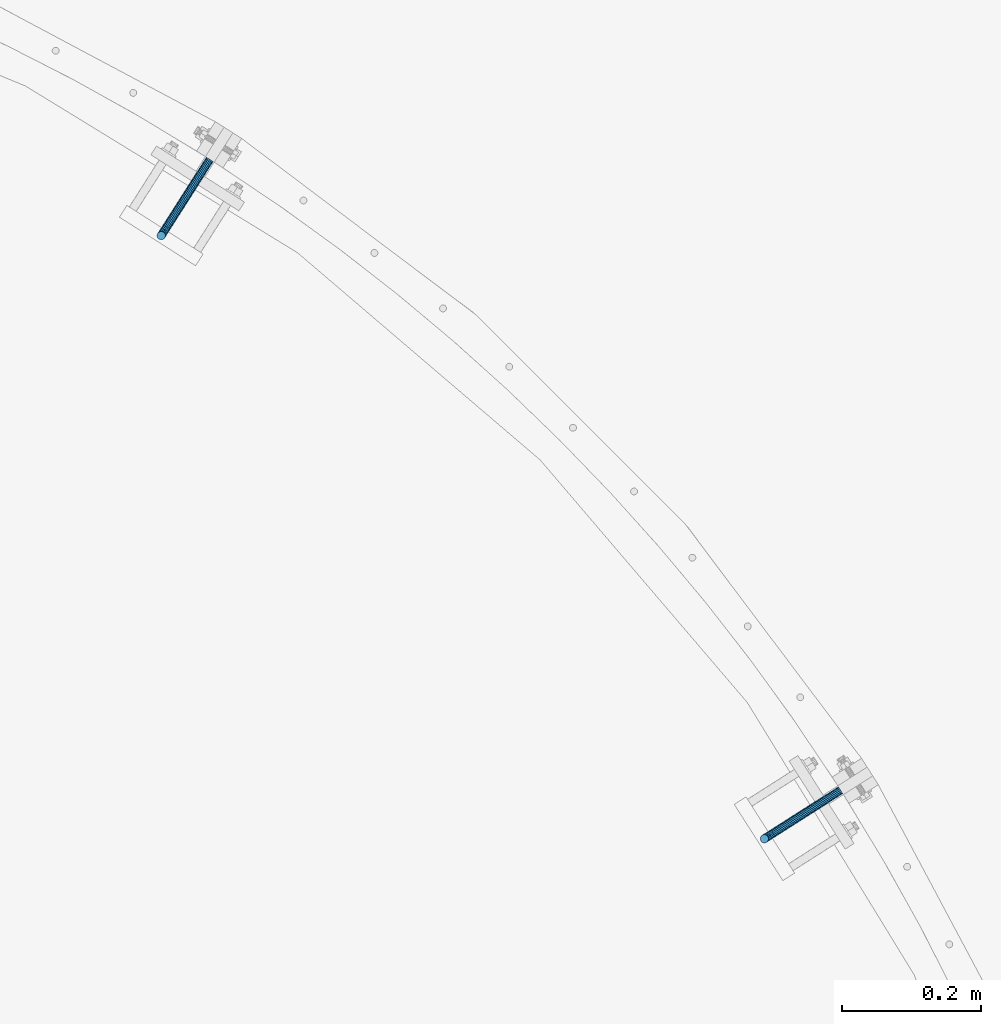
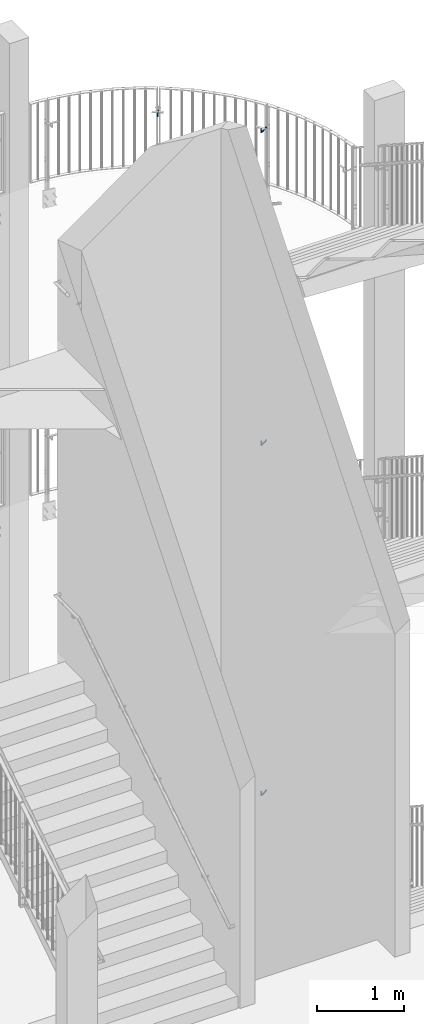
# One storey, part 145 of 296: 4 beams.
"""IFC2X3 building model written with IfcOpenShell, lengths in millimetres."""

from ifc_helpers import new_model, entity, si_unit, converted_unit, origin_with_axes, place, context, project, spatial, faceted_brep, material, element, save


model = new_model("IFC2X3")

# Units and contexts
model_context = context("Model", 3, precision=1e-09, world=origin_with_axes())
ifc_project = project(units=[si_unit("LENGTHUNIT", "METRE", prefix="MILLI"), si_unit("AREAUNIT", "SQUARE_METRE"), si_unit("VOLUMEUNIT", "CUBIC_METRE"), converted_unit("PLANEANGLEUNIT", "DEGREE", entity("IfcPlaneAngleMeasure", 0.01745329), si_unit("PLANEANGLEUNIT", "RADIAN"), dimensions=[0, 0, 0, 0, 0, 0, 0])], contexts=[model_context])

# Site, building, storey
site_placement = place(None, origin_with_axes())
site = spatial("IfcSite", under=ifc_project, at=site_placement, Name="TZD-S?d | Treppenhausgel?nder", CompositionType="ELEMENT")
building_placement = place(site_placement, origin_with_axes())
building = spatial("IfcBuilding", under=site, at=building_placement, Name="Struktur 1", CompositionType="ELEMENT")
storey_placement = place(building_placement, origin_with_axes())
storey = spatial("IfcBuildingStorey", under=building, at=storey_placement, Name="Default Storey", CompositionType="ELEMENT", Elevation=0.0)

# Beams
ifc_material = material(Name="S235JR")
beam_1_placement = place(None, origin_with_axes())
element("IfcBeam", 1, at=beam_1_placement, inside=storey, material=ifc_material, Name="-", ObjectType="-", context=model_context, shape_type="Brep", body=[
    faceted_brep([(4447.202500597, 2285.105902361, 12585.0), (4449.543027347, 2285.156972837, 12585.0), (4451.685848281, 2286.099836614, 12585.0), (4453.304738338, 2287.790951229, 12585.0), (4454.153236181, 2289.972859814, 12585.0), (4454.102165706, 2292.313386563, 12585.0), (4453.159301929, 2294.456207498, 12585.0), (4451.468187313, 2296.075097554, 12585.0), (4449.286278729, 2296.923595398, 12585.0), (4446.94575198, 2296.872524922, 12585.0), (4444.802931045, 2295.929661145, 12585.0), (4443.184040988, 2294.23854653, 12585.0), (4442.335543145, 2292.056637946, 12585.0), (4442.38661362, 2289.716111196, 12585.0), (4443.329477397, 2287.573290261, 12585.0), (4445.020592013, 2285.954400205, 12585.0), (4521.671545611, 2398.376067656, 12515.757359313), (4520.029850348, 2399.421942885, 12514.456722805), (4518.093338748, 2400.655636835, 12514.0), (4516.156827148, 2401.889330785, 12514.456722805), (4514.515131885, 2402.935206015, 12515.757359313), (4513.41818618, 2403.634037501, 12517.703899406), (4513.032990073, 2403.879434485, 12520.0), (4513.41818618, 2403.634037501, 12522.296100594), (4514.515131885, 2402.935206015, 12524.242640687), (4516.156827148, 2401.889330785, 12525.543277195), (4518.093338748, 2400.655636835, 12526.0), (4520.029850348, 2399.421942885, 12525.543277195), (4521.671545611, 2398.376067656, 12524.242640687), (4522.768491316, 2397.677236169, 12522.296100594), (4523.153687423, 2397.431839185, 12520.0), (4522.768491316, 2397.677236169, 12517.703899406), (4447.202500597, 2285.105902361, 12540.0), (4449.543027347, 2285.156972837, 12540.0), (4451.685848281, 2286.099836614, 12540.0), (4453.304738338, 2287.790951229, 12540.0), (4454.153236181, 2289.972859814, 12540.0), (4454.102165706, 2292.313386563, 12540.0), (4453.159301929, 2294.456207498, 12540.0), (4451.468187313, 2296.075097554, 12540.0), (4449.286278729, 2296.923595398, 12540.0), (4446.94575198, 2296.872524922, 12540.0), (4444.802931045, 2295.929661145, 12540.0), (4443.184040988, 2294.23854653, 12540.0), (4442.335543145, 2292.056637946, 12540.0), (4442.38661362, 2289.716111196, 12540.0), (4443.329477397, 2287.573290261, 12540.0), (4445.020592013, 2285.954400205, 12540.0), (4448.247207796, 2286.745764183, 12530.225011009), (4450.534539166, 2286.713334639, 12530.722743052), (4452.597747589, 2287.531231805, 12531.467651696), (4454.122728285, 2289.074938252, 12532.346331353), (4454.877316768, 2291.109438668, 12533.225011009), (4454.746633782, 2293.324998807, 12533.969919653), (4453.750574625, 2295.384319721, 12534.467651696), (4452.040780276, 2296.97388847, 12534.642431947), (4449.877551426, 2297.851707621, 12534.467651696), (4447.590220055, 2297.884137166, 12533.969919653), (4445.527011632, 2297.06624, 12533.225011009), (4444.002030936, 2295.522533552, 12532.346331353), (4443.247442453, 2293.488033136, 12531.467651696), (4443.378125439, 2291.272472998, 12530.722743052), (4444.374184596, 2289.213152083, 12530.225011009), (4446.083978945, 2287.623583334, 12530.050230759), (4451.22228219, 2291.415695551, 12521.938175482), (4453.358125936, 2291.145478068, 12522.857864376), (4455.194617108, 2291.607500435, 12524.234276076), (4456.452166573, 2292.731423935, 12525.857864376), (4456.939323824, 2294.346141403, 12527.481452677), (4456.581923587, 2296.205826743, 12528.857864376), (4455.434376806, 2298.027359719, 12529.777553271), (4453.671387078, 2299.533428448, 12530.100505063), (4451.561353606, 2300.494747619, 12529.777553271), (4449.42550986, 2300.764965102, 12528.857864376), (4447.589018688, 2300.302942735, 12527.481452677), (4446.331469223, 2299.179019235, 12525.857864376), (4445.844311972, 2297.564301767, 12524.234276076), (4446.20171221, 2295.704616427, 12522.857864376), (4447.349258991, 2293.883083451, 12521.938175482), (4449.112248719, 2292.377014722, 12521.615223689), (4455.674795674, 2298.404741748, 12516.401089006), (4457.583922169, 2297.778649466, 12517.602720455), (4459.081106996, 2297.708067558, 12519.401089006), (4459.938417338, 2298.203741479, 12521.52240935), (4460.025335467, 2299.19020937, 12523.643729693), (4459.328628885, 2300.517290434, 12525.442098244), (4457.954364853, 2301.982948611, 12526.643729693), (4456.111762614, 2303.364050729, 12527.065686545), (4454.081341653, 2304.450336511, 12526.643729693), (4452.172215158, 2305.076428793, 12525.442098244), (4450.675030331, 2305.147010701, 12523.643729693), (4449.817719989, 2304.65133678, 12521.52240935), (4449.73080186, 2303.66486889, 12519.401089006), (4450.427508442, 2302.337787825, 12517.602720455), (4451.801772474, 2300.872129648, 12516.401089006), (4453.644374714, 2299.49102753, 12515.979132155), (4460.92689343, 2306.648883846, 12514.456722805), (4462.568588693, 2305.603008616, 12515.757359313), (4463.665534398, 2304.90417713, 12517.703899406), (4464.050730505, 2304.658780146, 12520.0), (4463.665534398, 2304.90417713, 12522.296100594), (4462.568588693, 2305.603008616, 12524.242640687), (4460.92689343, 2306.648883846, 12525.543277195), (4458.99038183, 2307.882577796, 12526.0), (4457.05387023, 2309.116271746, 12525.543277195), (4455.412174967, 2310.162146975, 12524.242640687), (4454.315229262, 2310.860978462, 12522.296100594), (4453.930033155, 2311.106375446, 12520.0), (4454.315229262, 2310.860978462, 12517.703899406), (4455.412174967, 2310.162146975, 12515.757359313), (4457.05387023, 2309.116271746, 12514.456722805), (4458.99038183, 2307.882577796, 12514.0)], [[[0, 1, 2, 3, 4, 5, 6, 7, 8, 9, 10, 11, 12, 13, 14, 15]], [[16, 17, 18, 19, 20, 21, 22, 23, 24, 25, 26, 27, 28, 29, 30, 31]], [[1, 0, 32, 33]], [[2, 1, 33, 34]], [[3, 2, 34, 35]], [[4, 3, 35, 36]], [[5, 4, 36, 37]], [[6, 5, 37, 38]], [[7, 6, 38, 39]], [[8, 7, 39, 40]], [[9, 8, 40, 41]], [[10, 9, 41, 42]], [[11, 10, 42, 43]], [[12, 11, 43, 44]], [[13, 12, 44, 45]], [[14, 13, 45, 46]], [[15, 14, 46, 47]], [[0, 15, 47, 32]], [[33, 32, 48, 49]], [[34, 33, 49, 50]], [[35, 34, 50, 51]], [[36, 35, 51, 52]], [[37, 36, 52, 53]], [[38, 37, 53, 54]], [[39, 38, 54, 55]], [[40, 39, 55, 56]], [[41, 40, 56, 57]], [[42, 41, 57, 58]], [[43, 42, 58, 59]], [[44, 43, 59, 60]], [[45, 44, 60, 61]], [[46, 45, 61, 62]], [[47, 46, 62, 63]], [[32, 47, 63, 48]], [[49, 48, 64, 65]], [[50, 49, 65, 66]], [[51, 50, 66, 67]], [[52, 51, 67, 68]], [[53, 52, 68, 69]], [[54, 53, 69, 70]], [[55, 54, 70, 71]], [[56, 55, 71, 72]], [[57, 56, 72, 73]], [[58, 57, 73, 74]], [[59, 58, 74, 75]], [[60, 59, 75, 76]], [[61, 60, 76, 77]], [[62, 61, 77, 78]], [[63, 62, 78, 79]], [[48, 63, 79, 64]], [[65, 64, 80, 81]], [[66, 65, 81, 82]], [[67, 66, 82, 83]], [[68, 67, 83, 84]], [[69, 68, 84, 85]], [[70, 69, 85, 86]], [[71, 70, 86, 87]], [[72, 71, 87, 88]], [[73, 72, 88, 89]], [[74, 73, 89, 90]], [[75, 74, 90, 91]], [[76, 75, 91, 92]], [[77, 76, 92, 93]], [[78, 77, 93, 94]], [[79, 78, 94, 95]], [[64, 79, 95, 80]], [[81, 80, 96, 97]], [[82, 81, 97, 98]], [[83, 82, 98, 99]], [[84, 83, 99, 100]], [[85, 84, 100, 101]], [[86, 85, 101, 102]], [[87, 86, 102, 103]], [[88, 87, 103, 104]], [[89, 88, 104, 105]], [[90, 89, 105, 106]], [[91, 90, 106, 107]], [[92, 91, 107, 108]], [[93, 92, 108, 109]], [[94, 93, 109, 110]], [[95, 94, 110, 111]], [[80, 95, 111, 96]], [[97, 96, 17, 16]], [[98, 97, 16, 31]], [[99, 98, 31, 30]], [[100, 99, 30, 29]], [[101, 100, 29, 28]], [[102, 101, 28, 27]], [[103, 102, 27, 26]], [[104, 103, 26, 25]], [[105, 104, 25, 24]], [[106, 105, 24, 23]], [[107, 106, 23, 22]], [[108, 107, 22, 21]], [[109, 108, 21, 20]], [[110, 109, 20, 19]], [[111, 110, 19, 18]], [[96, 111, 18, 17]]]),
])
beam_2_placement = place(None, origin_with_axes())
element("IfcBeam", 2, at=beam_2_placement, inside=storey, material=ifc_material, Name="-", ObjectType="-", context=model_context, shape_type="Brep", body=[
    faceted_brep([(5312.573290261, 1418.329477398, 12585.0), (5314.716111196, 1417.386613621, 12585.0), (5317.056637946, 1417.335543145, 12585.0), (5319.23854653, 1418.184040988, 12585.0), (5320.929661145, 1419.802931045, 12585.0), (5321.872524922, 1421.94575198, 12585.0), (5321.923595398, 1424.286278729, 12585.0), (5321.075097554, 1426.468187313, 12585.0), (5319.456207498, 1428.159301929, 12585.0), (5317.313386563, 1429.102165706, 12585.0), (5314.972859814, 1429.153236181, 12585.0), (5312.790951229, 1428.304738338, 12585.0), (5311.099836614, 1426.685848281, 12585.0), (5310.156972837, 1424.543027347, 12585.0), (5310.105902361, 1422.202500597, 12585.0), (5310.954400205, 1420.020592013, 12585.0), (5427.935206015, 1489.515131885, 12515.757359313), (5426.889330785, 1491.156827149, 12514.456722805), (5425.655636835, 1493.093338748, 12514.0), (5424.421942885, 1495.029850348, 12514.456722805), (5423.376067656, 1496.671545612, 12515.757359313), (5422.677236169, 1497.768491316, 12517.703899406), (5422.431839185, 1498.153687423, 12520.0), (5422.677236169, 1497.768491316, 12522.296100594), (5423.376067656, 1496.671545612, 12524.242640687), (5424.421942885, 1495.029850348, 12525.543277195), (5425.655636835, 1493.093338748, 12526.0), (5426.889330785, 1491.156827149, 12525.543277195), (5427.935206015, 1489.515131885, 12524.242640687), (5428.634037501, 1488.41818618, 12522.296100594), (5428.879434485, 1488.032990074, 12520.0), (5428.634037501, 1488.41818618, 12517.703899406), (5312.573290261, 1418.329477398, 12540.0), (5314.716111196, 1417.386613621, 12540.0), (5317.056637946, 1417.335543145, 12540.0), (5319.23854653, 1418.184040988, 12540.0), (5320.929661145, 1419.802931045, 12540.0), (5321.872524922, 1421.94575198, 12540.0), (5321.923595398, 1424.286278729, 12540.0), (5321.075097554, 1426.468187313, 12540.0), (5319.456207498, 1428.159301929, 12540.0), (5317.313386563, 1429.102165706, 12540.0), (5314.972859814, 1429.153236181, 12540.0), (5312.790951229, 1428.304738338, 12540.0), (5311.099836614, 1426.685848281, 12540.0), (5310.156972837, 1424.543027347, 12540.0), (5310.105902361, 1422.202500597, 12540.0), (5310.954400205, 1420.020592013, 12540.0), (5314.213152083, 1419.374184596, 12530.225011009), (5316.272472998, 1418.37812544, 12530.722743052), (5318.488033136, 1418.247442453, 12531.467651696), (5320.522533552, 1419.002030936, 12532.346331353), (5322.06624, 1420.527011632, 12533.225011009), (5322.884137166, 1422.590220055, 12533.969919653), (5322.851707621, 1424.877551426, 12534.467651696), (5321.97388847, 1427.040780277, 12534.642431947), (5320.384319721, 1428.750574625, 12534.467651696), (5318.324998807, 1429.746633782, 12533.969919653), (5316.109438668, 1429.877316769, 12533.225011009), (5314.074938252, 1429.122728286, 12532.346331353), (5312.531231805, 1427.597747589, 12531.467651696), (5311.713334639, 1425.534539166, 12530.722743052), (5311.745764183, 1423.247207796, 12530.225011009), (5312.623583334, 1421.083978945, 12530.050230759), (5318.883083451, 1422.349258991, 12521.938175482), (5320.704616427, 1421.20171221, 12522.857864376), (5322.564301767, 1420.844311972, 12524.234276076), (5324.179019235, 1421.331469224, 12525.857864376), (5325.302942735, 1422.589018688, 12527.481452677), (5325.764965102, 1424.42550986, 12528.857864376), (5325.494747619, 1426.561353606, 12529.777553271), (5324.533428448, 1428.671387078, 12530.100505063), (5323.027359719, 1430.434376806, 12529.777553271), (5321.205826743, 1431.581923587, 12528.857864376), (5319.346141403, 1431.939323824, 12527.481452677), (5317.731423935, 1431.452166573, 12525.857864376), (5316.607500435, 1430.194617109, 12524.234276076), (5316.145478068, 1428.358125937, 12522.857864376), (5316.415695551, 1426.22228219, 12521.938175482), (5317.377014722, 1424.112248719, 12521.615223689), (5325.872129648, 1426.801772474, 12516.401089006), (5327.337787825, 1425.427508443, 12517.602720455), (5328.66486889, 1424.73080186, 12519.401089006), (5329.65133678, 1424.817719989, 12521.52240935), (5330.147010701, 1425.675030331, 12523.643729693), (5330.076428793, 1427.172215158, 12525.442098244), (5329.450336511, 1429.081341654, 12526.643729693), (5328.364050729, 1431.111762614, 12527.065686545), (5326.982948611, 1432.954364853, 12526.643729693), (5325.517290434, 1434.328628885, 12525.442098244), (5324.19020937, 1435.025335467, 12523.643729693), (5323.203741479, 1434.938417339, 12521.52240935), (5322.708067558, 1434.081106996, 12519.401089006), (5322.778649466, 1432.583922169, 12517.602720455), (5323.404741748, 1430.674795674, 12516.401089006), (5324.49102753, 1428.644374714, 12515.979132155), (5334.116271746, 1432.05387023, 12514.456722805), (5335.162146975, 1430.412174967, 12515.757359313), (5335.860978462, 1429.315229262, 12517.703899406), (5336.106375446, 1428.930033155, 12520.0), (5335.860978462, 1429.315229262, 12522.296100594), (5335.162146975, 1430.412174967, 12524.242640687), (5334.116271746, 1432.05387023, 12525.543277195), (5332.882577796, 1433.99038183, 12526.0), (5331.648883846, 1435.92689343, 12525.543277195), (5330.603008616, 1437.568588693, 12524.242640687), (5329.90417713, 1438.665534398, 12522.296100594), (5329.658780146, 1439.050730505, 12520.0), (5329.90417713, 1438.665534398, 12517.703899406), (5330.603008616, 1437.568588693, 12515.757359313), (5331.648883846, 1435.92689343, 12514.456722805), (5332.882577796, 1433.99038183, 12514.0)], [[[0, 1, 2, 3, 4, 5, 6, 7, 8, 9, 10, 11, 12, 13, 14, 15]], [[16, 17, 18, 19, 20, 21, 22, 23, 24, 25, 26, 27, 28, 29, 30, 31]], [[1, 0, 32, 33]], [[2, 1, 33, 34]], [[3, 2, 34, 35]], [[4, 3, 35, 36]], [[5, 4, 36, 37]], [[6, 5, 37, 38]], [[7, 6, 38, 39]], [[8, 7, 39, 40]], [[9, 8, 40, 41]], [[10, 9, 41, 42]], [[11, 10, 42, 43]], [[12, 11, 43, 44]], [[13, 12, 44, 45]], [[14, 13, 45, 46]], [[15, 14, 46, 47]], [[0, 15, 47, 32]], [[33, 32, 48, 49]], [[34, 33, 49, 50]], [[35, 34, 50, 51]], [[36, 35, 51, 52]], [[37, 36, 52, 53]], [[38, 37, 53, 54]], [[39, 38, 54, 55]], [[40, 39, 55, 56]], [[41, 40, 56, 57]], [[42, 41, 57, 58]], [[43, 42, 58, 59]], [[44, 43, 59, 60]], [[45, 44, 60, 61]], [[46, 45, 61, 62]], [[47, 46, 62, 63]], [[32, 47, 63, 48]], [[49, 48, 64, 65]], [[50, 49, 65, 66]], [[51, 50, 66, 67]], [[52, 51, 67, 68]], [[53, 52, 68, 69]], [[54, 53, 69, 70]], [[55, 54, 70, 71]], [[56, 55, 71, 72]], [[57, 56, 72, 73]], [[58, 57, 73, 74]], [[59, 58, 74, 75]], [[60, 59, 75, 76]], [[61, 60, 76, 77]], [[62, 61, 77, 78]], [[63, 62, 78, 79]], [[48, 63, 79, 64]], [[65, 64, 80, 81]], [[66, 65, 81, 82]], [[67, 66, 82, 83]], [[68, 67, 83, 84]], [[69, 68, 84, 85]], [[70, 69, 85, 86]], [[71, 70, 86, 87]], [[72, 71, 87, 88]], [[73, 72, 88, 89]], [[74, 73, 89, 90]], [[75, 74, 90, 91]], [[76, 75, 91, 92]], [[77, 76, 92, 93]], [[78, 77, 93, 94]], [[79, 78, 94, 95]], [[64, 79, 95, 80]], [[81, 80, 96, 97]], [[82, 81, 97, 98]], [[83, 82, 98, 99]], [[84, 83, 99, 100]], [[85, 84, 100, 101]], [[86, 85, 101, 102]], [[87, 86, 102, 103]], [[88, 87, 103, 104]], [[89, 88, 104, 105]], [[90, 89, 105, 106]], [[91, 90, 106, 107]], [[92, 91, 107, 108]], [[93, 92, 108, 109]], [[94, 93, 109, 110]], [[95, 94, 110, 111]], [[80, 95, 111, 96]], [[97, 96, 17, 16]], [[98, 97, 16, 31]], [[99, 98, 31, 30]], [[100, 99, 30, 29]], [[101, 100, 29, 28]], [[102, 101, 28, 27]], [[103, 102, 27, 26]], [[104, 103, 26, 25]], [[105, 104, 25, 24]], [[106, 105, 24, 23]], [[107, 106, 23, 22]], [[108, 107, 22, 21]], [[109, 108, 21, 20]], [[110, 109, 20, 19]], [[111, 110, 19, 18]], [[96, 111, 18, 17]]]),
])
beam_3_placement = place(None, origin_with_axes())
element("IfcBeam", 3, at=beam_3_placement, inside=storey, material=ifc_material, Name="-", ObjectType="-", context=model_context, shape_type="Brep", body=[
    faceted_brep([(5312.573290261, 1418.329477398, 8210.0), (5314.716111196, 1417.386613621, 8210.0), (5317.056637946, 1417.335543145, 8210.0), (5319.23854653, 1418.184040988, 8210.0), (5320.929661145, 1419.802931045, 8210.0), (5321.872524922, 1421.94575198, 8210.0), (5321.923595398, 1424.286278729, 8210.0), (5321.075097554, 1426.468187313, 8210.0), (5319.456207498, 1428.159301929, 8210.0), (5317.313386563, 1429.102165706, 8210.0), (5314.972859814, 1429.153236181, 8210.0), (5312.790951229, 1428.304738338, 8210.0), (5311.099836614, 1426.685848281, 8210.0), (5310.156972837, 1424.543027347, 8210.0), (5310.105902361, 1422.202500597, 8210.0), (5310.954400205, 1420.020592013, 8210.0), (5427.935206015, 1489.515131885, 8140.757359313), (5426.889330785, 1491.156827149, 8139.456722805), (5425.655636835, 1493.093338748, 8139.0), (5424.421942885, 1495.029850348, 8139.456722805), (5423.376067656, 1496.671545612, 8140.757359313), (5422.677236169, 1497.768491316, 8142.703899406), (5422.431839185, 1498.153687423, 8145.0), (5422.677236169, 1497.768491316, 8147.296100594), (5423.376067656, 1496.671545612, 8149.242640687), (5424.421942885, 1495.029850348, 8150.543277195), (5425.655636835, 1493.093338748, 8151.0), (5426.889330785, 1491.156827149, 8150.543277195), (5427.935206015, 1489.515131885, 8149.242640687), (5428.634037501, 1488.41818618, 8147.296100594), (5428.879434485, 1488.032990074, 8145.0), (5428.634037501, 1488.41818618, 8142.703899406), (5312.573290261, 1418.329477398, 8165.0), (5314.716111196, 1417.386613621, 8165.0), (5317.056637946, 1417.335543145, 8165.0), (5319.23854653, 1418.184040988, 8165.0), (5320.929661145, 1419.802931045, 8165.0), (5321.872524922, 1421.94575198, 8165.0), (5321.923595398, 1424.286278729, 8165.0), (5321.075097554, 1426.468187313, 8165.0), (5319.456207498, 1428.159301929, 8165.0), (5317.313386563, 1429.102165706, 8165.0), (5314.972859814, 1429.153236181, 8165.0), (5312.790951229, 1428.304738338, 8165.0), (5311.099836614, 1426.685848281, 8165.0), (5310.156972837, 1424.543027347, 8165.0), (5310.105902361, 1422.202500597, 8165.0), (5310.954400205, 1420.020592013, 8165.0), (5314.213152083, 1419.374184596, 8155.225011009), (5316.272472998, 1418.37812544, 8155.722743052), (5318.488033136, 1418.247442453, 8156.467651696), (5320.522533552, 1419.002030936, 8157.346331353), (5322.06624, 1420.527011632, 8158.225011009), (5322.884137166, 1422.590220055, 8158.969919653), (5322.851707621, 1424.877551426, 8159.467651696), (5321.97388847, 1427.040780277, 8159.642431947), (5320.384319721, 1428.750574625, 8159.467651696), (5318.324998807, 1429.746633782, 8158.969919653), (5316.109438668, 1429.877316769, 8158.225011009), (5314.074938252, 1429.122728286, 8157.346331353), (5312.531231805, 1427.597747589, 8156.467651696), (5311.713334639, 1425.534539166, 8155.722743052), (5311.745764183, 1423.247207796, 8155.225011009), (5312.623583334, 1421.083978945, 8155.050230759), (5318.883083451, 1422.349258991, 8146.938175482), (5320.704616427, 1421.20171221, 8147.857864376), (5322.564301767, 1420.844311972, 8149.234276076), (5324.179019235, 1421.331469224, 8150.857864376), (5325.302942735, 1422.589018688, 8152.481452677), (5325.764965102, 1424.42550986, 8153.857864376), (5325.494747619, 1426.561353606, 8154.777553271), (5324.533428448, 1428.671387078, 8155.100505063), (5323.027359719, 1430.434376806, 8154.777553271), (5321.205826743, 1431.581923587, 8153.857864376), (5319.346141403, 1431.939323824, 8152.481452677), (5317.731423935, 1431.452166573, 8150.857864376), (5316.607500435, 1430.194617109, 8149.234276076), (5316.145478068, 1428.358125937, 8147.857864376), (5316.415695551, 1426.22228219, 8146.938175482), (5317.377014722, 1424.112248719, 8146.615223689), (5325.872129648, 1426.801772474, 8141.401089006), (5327.337787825, 1425.427508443, 8142.602720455), (5328.66486889, 1424.73080186, 8144.401089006), (5329.65133678, 1424.817719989, 8146.52240935), (5330.147010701, 1425.675030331, 8148.643729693), (5330.076428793, 1427.172215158, 8150.442098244), (5329.450336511, 1429.081341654, 8151.643729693), (5328.364050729, 1431.111762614, 8152.065686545), (5326.982948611, 1432.954364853, 8151.643729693), (5325.517290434, 1434.328628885, 8150.442098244), (5324.19020937, 1435.025335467, 8148.643729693), (5323.203741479, 1434.938417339, 8146.52240935), (5322.708067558, 1434.081106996, 8144.401089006), (5322.778649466, 1432.583922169, 8142.602720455), (5323.404741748, 1430.674795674, 8141.401089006), (5324.49102753, 1428.644374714, 8140.979132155), (5334.116271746, 1432.05387023, 8139.456722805), (5335.162146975, 1430.412174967, 8140.757359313), (5335.860978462, 1429.315229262, 8142.703899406), (5336.106375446, 1428.930033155, 8145.0), (5335.860978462, 1429.315229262, 8147.296100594), (5335.162146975, 1430.412174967, 8149.242640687), (5334.116271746, 1432.05387023, 8150.543277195), (5332.882577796, 1433.99038183, 8151.0), (5331.648883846, 1435.92689343, 8150.543277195), (5330.603008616, 1437.568588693, 8149.242640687), (5329.90417713, 1438.665534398, 8147.296100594), (5329.658780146, 1439.050730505, 8145.0), (5329.90417713, 1438.665534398, 8142.703899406), (5330.603008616, 1437.568588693, 8140.757359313), (5331.648883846, 1435.92689343, 8139.456722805), (5332.882577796, 1433.99038183, 8139.0)], [[[0, 1, 2, 3, 4, 5, 6, 7, 8, 9, 10, 11, 12, 13, 14, 15]], [[16, 17, 18, 19, 20, 21, 22, 23, 24, 25, 26, 27, 28, 29, 30, 31]], [[1, 0, 32, 33]], [[2, 1, 33, 34]], [[3, 2, 34, 35]], [[4, 3, 35, 36]], [[5, 4, 36, 37]], [[6, 5, 37, 38]], [[7, 6, 38, 39]], [[8, 7, 39, 40]], [[9, 8, 40, 41]], [[10, 9, 41, 42]], [[11, 10, 42, 43]], [[12, 11, 43, 44]], [[13, 12, 44, 45]], [[14, 13, 45, 46]], [[15, 14, 46, 47]], [[0, 15, 47, 32]], [[33, 32, 48, 49]], [[34, 33, 49, 50]], [[35, 34, 50, 51]], [[36, 35, 51, 52]], [[37, 36, 52, 53]], [[38, 37, 53, 54]], [[39, 38, 54, 55]], [[40, 39, 55, 56]], [[41, 40, 56, 57]], [[42, 41, 57, 58]], [[43, 42, 58, 59]], [[44, 43, 59, 60]], [[45, 44, 60, 61]], [[46, 45, 61, 62]], [[47, 46, 62, 63]], [[32, 47, 63, 48]], [[49, 48, 64, 65]], [[50, 49, 65, 66]], [[51, 50, 66, 67]], [[52, 51, 67, 68]], [[53, 52, 68, 69]], [[54, 53, 69, 70]], [[55, 54, 70, 71]], [[56, 55, 71, 72]], [[57, 56, 72, 73]], [[58, 57, 73, 74]], [[59, 58, 74, 75]], [[60, 59, 75, 76]], [[61, 60, 76, 77]], [[62, 61, 77, 78]], [[63, 62, 78, 79]], [[48, 63, 79, 64]], [[65, 64, 80, 81]], [[66, 65, 81, 82]], [[67, 66, 82, 83]], [[68, 67, 83, 84]], [[69, 68, 84, 85]], [[70, 69, 85, 86]], [[71, 70, 86, 87]], [[72, 71, 87, 88]], [[73, 72, 88, 89]], [[74, 73, 89, 90]], [[75, 74, 90, 91]], [[76, 75, 91, 92]], [[77, 76, 92, 93]], [[78, 77, 93, 94]], [[79, 78, 94, 95]], [[64, 79, 95, 80]], [[81, 80, 96, 97]], [[82, 81, 97, 98]], [[83, 82, 98, 99]], [[84, 83, 99, 100]], [[85, 84, 100, 101]], [[86, 85, 101, 102]], [[87, 86, 102, 103]], [[88, 87, 103, 104]], [[89, 88, 104, 105]], [[90, 89, 105, 106]], [[91, 90, 106, 107]], [[92, 91, 107, 108]], [[93, 92, 108, 109]], [[94, 93, 109, 110]], [[95, 94, 110, 111]], [[80, 95, 111, 96]], [[97, 96, 17, 16]], [[98, 97, 16, 31]], [[99, 98, 31, 30]], [[100, 99, 30, 29]], [[101, 100, 29, 28]], [[102, 101, 28, 27]], [[103, 102, 27, 26]], [[104, 103, 26, 25]], [[105, 104, 25, 24]], [[106, 105, 24, 23]], [[107, 106, 23, 22]], [[108, 107, 22, 21]], [[109, 108, 21, 20]], [[110, 109, 20, 19]], [[111, 110, 19, 18]], [[96, 111, 18, 17]]]),
])
beam_4_placement = place(None, origin_with_axes())
element("IfcBeam", 4, at=beam_4_placement, inside=storey, material=ifc_material, Name="-", ObjectType="-", context=model_context, shape_type="Brep", body=[
    faceted_brep([(5312.573290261, 1418.329477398, 3310.0), (5314.716111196, 1417.386613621, 3310.0), (5317.056637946, 1417.335543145, 3310.0), (5319.23854653, 1418.184040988, 3310.0), (5320.929661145, 1419.802931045, 3310.0), (5321.872524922, 1421.94575198, 3310.0), (5321.923595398, 1424.286278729, 3310.0), (5321.075097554, 1426.468187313, 3310.0), (5319.456207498, 1428.159301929, 3310.0), (5317.313386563, 1429.102165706, 3310.0), (5314.972859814, 1429.153236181, 3310.0), (5312.790951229, 1428.304738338, 3310.0), (5311.099836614, 1426.685848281, 3310.0), (5310.156972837, 1424.543027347, 3310.0), (5310.105902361, 1422.202500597, 3310.0), (5310.954400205, 1420.020592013, 3310.0), (5427.935206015, 1489.515131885, 3240.757359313), (5426.889330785, 1491.156827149, 3239.456722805), (5425.655636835, 1493.093338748, 3239.0), (5424.421942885, 1495.029850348, 3239.456722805), (5423.376067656, 1496.671545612, 3240.757359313), (5422.677236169, 1497.768491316, 3242.703899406), (5422.431839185, 1498.153687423, 3245.0), (5422.677236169, 1497.768491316, 3247.296100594), (5423.376067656, 1496.671545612, 3249.242640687), (5424.421942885, 1495.029850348, 3250.543277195), (5425.655636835, 1493.093338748, 3251.0), (5426.889330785, 1491.156827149, 3250.543277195), (5427.935206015, 1489.515131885, 3249.242640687), (5428.634037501, 1488.41818618, 3247.296100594), (5428.879434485, 1488.032990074, 3245.0), (5428.634037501, 1488.41818618, 3242.703899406), (5312.573290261, 1418.329477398, 3265.0), (5314.716111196, 1417.386613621, 3265.0), (5317.056637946, 1417.335543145, 3265.0), (5319.23854653, 1418.184040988, 3265.0), (5320.929661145, 1419.802931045, 3265.0), (5321.872524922, 1421.94575198, 3265.0), (5321.923595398, 1424.286278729, 3265.0), (5321.075097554, 1426.468187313, 3265.0), (5319.456207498, 1428.159301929, 3265.0), (5317.313386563, 1429.102165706, 3265.0), (5314.972859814, 1429.153236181, 3265.0), (5312.790951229, 1428.304738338, 3265.0), (5311.099836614, 1426.685848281, 3265.0), (5310.156972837, 1424.543027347, 3265.0), (5310.105902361, 1422.202500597, 3265.0), (5310.954400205, 1420.020592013, 3265.0), (5314.213152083, 1419.374184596, 3255.225011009), (5316.272472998, 1418.37812544, 3255.722743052), (5318.488033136, 1418.247442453, 3256.467651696), (5320.522533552, 1419.002030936, 3257.346331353), (5322.06624, 1420.527011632, 3258.225011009), (5322.884137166, 1422.590220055, 3258.969919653), (5322.851707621, 1424.877551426, 3259.467651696), (5321.97388847, 1427.040780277, 3259.642431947), (5320.384319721, 1428.750574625, 3259.467651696), (5318.324998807, 1429.746633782, 3258.969919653), (5316.109438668, 1429.877316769, 3258.225011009), (5314.074938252, 1429.122728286, 3257.346331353), (5312.531231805, 1427.597747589, 3256.467651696), (5311.713334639, 1425.534539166, 3255.722743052), (5311.745764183, 1423.247207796, 3255.225011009), (5312.623583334, 1421.083978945, 3255.050230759), (5318.883083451, 1422.349258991, 3246.938175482), (5320.704616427, 1421.20171221, 3247.857864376), (5322.564301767, 1420.844311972, 3249.234276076), (5324.179019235, 1421.331469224, 3250.857864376), (5325.302942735, 1422.589018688, 3252.481452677), (5325.764965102, 1424.42550986, 3253.857864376), (5325.494747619, 1426.561353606, 3254.777553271), (5324.533428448, 1428.671387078, 3255.100505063), (5323.027359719, 1430.434376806, 3254.777553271), (5321.205826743, 1431.581923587, 3253.857864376), (5319.346141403, 1431.939323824, 3252.481452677), (5317.731423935, 1431.452166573, 3250.857864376), (5316.607500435, 1430.194617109, 3249.234276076), (5316.145478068, 1428.358125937, 3247.857864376), (5316.415695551, 1426.22228219, 3246.938175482), (5317.377014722, 1424.112248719, 3246.615223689), (5325.872129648, 1426.801772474, 3241.401089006), (5327.337787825, 1425.427508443, 3242.602720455), (5328.66486889, 1424.73080186, 3244.401089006), (5329.65133678, 1424.817719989, 3246.52240935), (5330.147010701, 1425.675030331, 3248.643729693), (5330.076428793, 1427.172215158, 3250.442098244), (5329.450336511, 1429.081341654, 3251.643729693), (5328.364050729, 1431.111762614, 3252.065686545), (5326.982948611, 1432.954364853, 3251.643729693), (5325.517290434, 1434.328628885, 3250.442098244), (5324.19020937, 1435.025335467, 3248.643729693), (5323.203741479, 1434.938417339, 3246.52240935), (5322.708067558, 1434.081106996, 3244.401089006), (5322.778649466, 1432.583922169, 3242.602720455), (5323.404741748, 1430.674795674, 3241.401089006), (5324.49102753, 1428.644374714, 3240.979132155), (5334.116271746, 1432.05387023, 3239.456722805), (5335.162146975, 1430.412174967, 3240.757359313), (5335.860978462, 1429.315229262, 3242.703899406), (5336.106375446, 1428.930033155, 3245.0), (5335.860978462, 1429.315229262, 3247.296100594), (5335.162146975, 1430.412174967, 3249.242640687), (5334.116271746, 1432.05387023, 3250.543277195), (5332.882577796, 1433.99038183, 3251.0), (5331.648883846, 1435.92689343, 3250.543277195), (5330.603008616, 1437.568588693, 3249.242640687), (5329.90417713, 1438.665534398, 3247.296100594), (5329.658780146, 1439.050730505, 3245.0), (5329.90417713, 1438.665534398, 3242.703899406), (5330.603008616, 1437.568588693, 3240.757359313), (5331.648883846, 1435.92689343, 3239.456722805), (5332.882577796, 1433.99038183, 3239.0)], [[[0, 1, 2, 3, 4, 5, 6, 7, 8, 9, 10, 11, 12, 13, 14, 15]], [[16, 17, 18, 19, 20, 21, 22, 23, 24, 25, 26, 27, 28, 29, 30, 31]], [[1, 0, 32, 33]], [[2, 1, 33, 34]], [[3, 2, 34, 35]], [[4, 3, 35, 36]], [[5, 4, 36, 37]], [[6, 5, 37, 38]], [[7, 6, 38, 39]], [[8, 7, 39, 40]], [[9, 8, 40, 41]], [[10, 9, 41, 42]], [[11, 10, 42, 43]], [[12, 11, 43, 44]], [[13, 12, 44, 45]], [[14, 13, 45, 46]], [[15, 14, 46, 47]], [[0, 15, 47, 32]], [[33, 32, 48, 49]], [[34, 33, 49, 50]], [[35, 34, 50, 51]], [[36, 35, 51, 52]], [[37, 36, 52, 53]], [[38, 37, 53, 54]], [[39, 38, 54, 55]], [[40, 39, 55, 56]], [[41, 40, 56, 57]], [[42, 41, 57, 58]], [[43, 42, 58, 59]], [[44, 43, 59, 60]], [[45, 44, 60, 61]], [[46, 45, 61, 62]], [[47, 46, 62, 63]], [[32, 47, 63, 48]], [[49, 48, 64, 65]], [[50, 49, 65, 66]], [[51, 50, 66, 67]], [[52, 51, 67, 68]], [[53, 52, 68, 69]], [[54, 53, 69, 70]], [[55, 54, 70, 71]], [[56, 55, 71, 72]], [[57, 56, 72, 73]], [[58, 57, 73, 74]], [[59, 58, 74, 75]], [[60, 59, 75, 76]], [[61, 60, 76, 77]], [[62, 61, 77, 78]], [[63, 62, 78, 79]], [[48, 63, 79, 64]], [[65, 64, 80, 81]], [[66, 65, 81, 82]], [[67, 66, 82, 83]], [[68, 67, 83, 84]], [[69, 68, 84, 85]], [[70, 69, 85, 86]], [[71, 70, 86, 87]], [[72, 71, 87, 88]], [[73, 72, 88, 89]], [[74, 73, 89, 90]], [[75, 74, 90, 91]], [[76, 75, 91, 92]], [[77, 76, 92, 93]], [[78, 77, 93, 94]], [[79, 78, 94, 95]], [[64, 79, 95, 80]], [[81, 80, 96, 97]], [[82, 81, 97, 98]], [[83, 82, 98, 99]], [[84, 83, 99, 100]], [[85, 84, 100, 101]], [[86, 85, 101, 102]], [[87, 86, 102, 103]], [[88, 87, 103, 104]], [[89, 88, 104, 105]], [[90, 89, 105, 106]], [[91, 90, 106, 107]], [[92, 91, 107, 108]], [[93, 92, 108, 109]], [[94, 93, 109, 110]], [[95, 94, 110, 111]], [[80, 95, 111, 96]], [[97, 96, 17, 16]], [[98, 97, 16, 31]], [[99, 98, 31, 30]], [[100, 99, 30, 29]], [[101, 100, 29, 28]], [[102, 101, 28, 27]], [[103, 102, 27, 26]], [[104, 103, 26, 25]], [[105, 104, 25, 24]], [[106, 105, 24, 23]], [[107, 106, 23, 22]], [[108, 107, 22, 21]], [[109, 108, 21, 20]], [[110, 109, 20, 19]], [[111, 110, 19, 18]], [[96, 111, 18, 17]]]),
])

save(model, "model.ifc")
